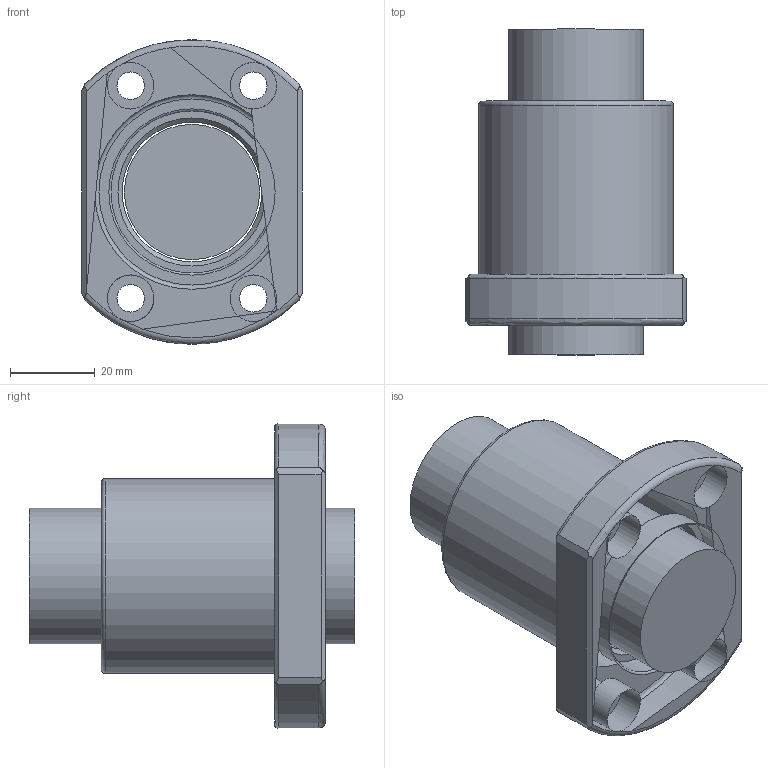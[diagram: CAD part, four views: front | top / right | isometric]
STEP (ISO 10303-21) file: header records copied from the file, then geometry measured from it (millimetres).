
FILE_DESCRIPTION(/* description */ (''),/* implementation_level */ '2;1');
FILE_NAME(/* name */ '3205T4D.prt.step',/* time_stamp */ '2008-12-05T09:33:56+08:00',/* author */ (''),/* organization */ (''),/* preprocessor_version */ 'ST-DEVELOPER v11',/* originating_system */ 'SIEMENS UGS NX 6.0',/* authorisation */ '');
FILE_SCHEMA (('AUTOMOTIVE_DESIGN { 1 0 10303 214 1 1 1 1 }'));
Length unit declared in the file: millimetre
Products named in the file (1): 3205T4D
Bounding box: 52 x 77 x 71.92 mm (x, y, z)
Volume: 117775.8 mm3; surface area: 29219.3 mm2
Topology: 2 solids, 2 shells, 45 faces, 110 edges, 72 vertices
Faces by surface type: plane 21, cylinder 15, torus 7, cone 2
Full cylindrical faces by diameter (mm): 6.5 x4, 11 x4, 31.95 x1, 33 x1, 38.3 x2, 46 x1
Entity records: 1416 total; most frequent: CARTESIAN_POINT 426, DIRECTION 202, ORIENTED_EDGE 166, AXIS2_PLACEMENT_3D 89, EDGE_CURVE 83, EDGE_LOOP 76, VERTEX_POINT 63, FACE_BOUND 58
